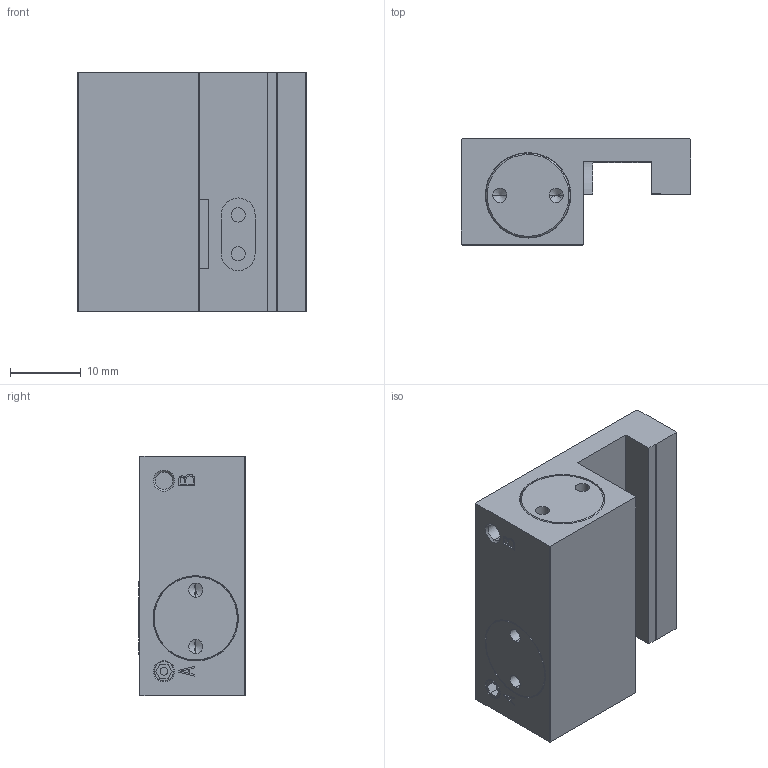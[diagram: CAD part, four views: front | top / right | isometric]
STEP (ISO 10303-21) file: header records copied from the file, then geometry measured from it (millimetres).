
FILE_DESCRIPTION( ( '' ), '1' );
FILE_NAME( 'E:/04 嬴檜蠱滌/0404 ZIMMER/040414 ZIMMER CAD download/MCP/MCP0901H---.stp', '2020-04-16T10:02:03', ( '' ), ( '' ), ' ', ' ', ' ' );
FILE_SCHEMA( ( 'automotive_design' ) );
Length unit declared in the file: millimetre
Products named in the file (1): 1
Bounding box: 32.5 x 15.05 x 34 mm (x, y, z)
Volume: 11347.5 mm3; surface area: 4651.8 mm2
Topology: 1 solids, 1 shells, 123 faces, 292 edges, 184 vertices
Faces by surface type: plane 67, cylinder 34, cone 22
Entity records: 6822 total; most frequent: DIRECTION 616, STYLED_ITEM 592, PRESENTATION_STYLE_ASSIGNMENT 592, CARTESIAN_POINT 592, COLOUR_RGB 592, ORIENTED_EDGE 568, EDGE_CURVE 284, CURVE_STYLE 284
